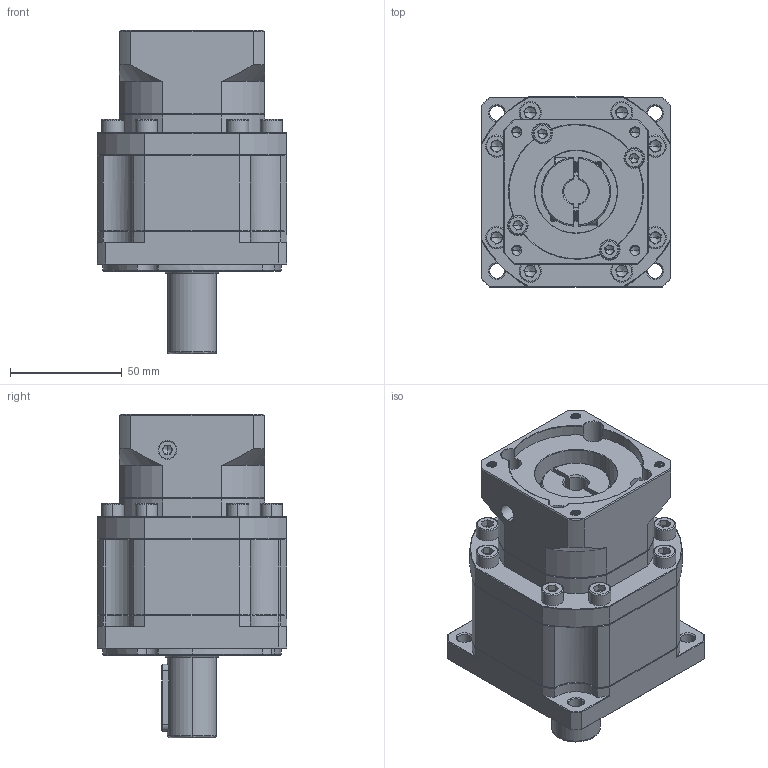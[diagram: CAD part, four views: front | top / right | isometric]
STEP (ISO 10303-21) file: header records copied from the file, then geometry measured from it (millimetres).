
FILE_DESCRIPTION (( 'STEP AP214' ), '1' );
FILE_NAME ('ZB090-D22-L2-P2-11-60-75-M5.step', '2023-08-18T13:36:08', ( '' ), ( '' ), 'SwSTEP 2.0', 'SolidWorks 2016', '' );
FILE_SCHEMA (( 'AUTOMOTIVE_DESIGN' ));
Length unit declared in the file: millimetre
Products named in the file (1): ZB090-D22-L2-P2-11-60-75-M5
Bounding box: 85 x 85 x 145 mm (x, y, z)
Volume: 541617 mm3; surface area: 76776.9 mm2
Topology: 6 solids, 6 shells, 2368 faces, 6304 edges, 4028 vertices
Faces by surface type: plane 1185, bspline 426, cylinder 409, cone 326, torus 22
Entity records: 126424 total; most frequent: CARTESIAN_POINT 44812, ORIENTED_EDGE 12516, DIRECTION 9990, EDGE_CURVE 6258, VERTEX_POINT 4028, VECTOR 3952, LINE 3952, AXIS2_PLACEMENT_3D 3019
